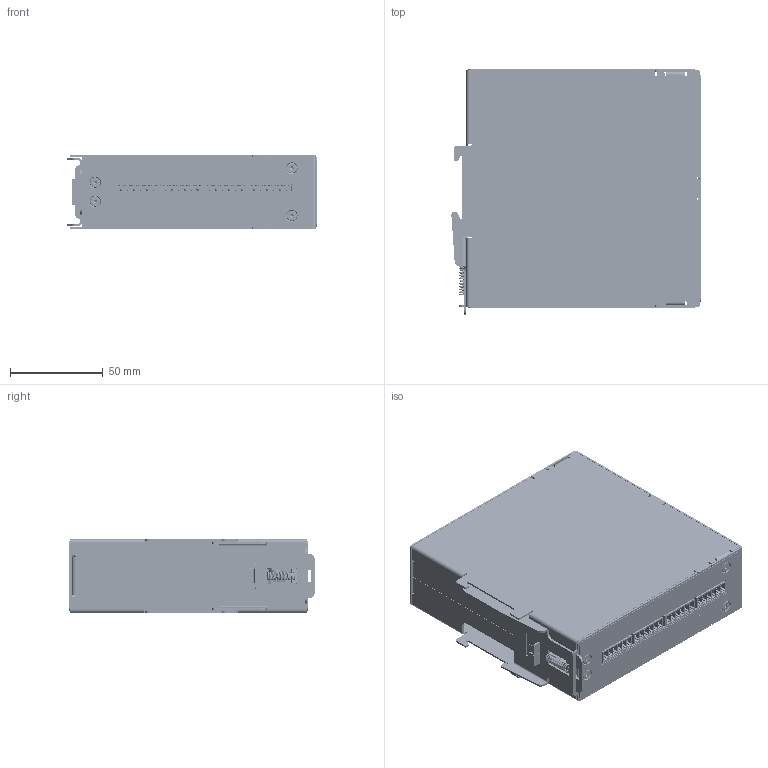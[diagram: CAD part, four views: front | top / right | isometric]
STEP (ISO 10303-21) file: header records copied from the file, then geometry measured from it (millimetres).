
FILE_DESCRIPTION (( 'STEP AP214' ), '1' );
FILE_NAME ('991-24579-00 RTD9-16 Dumb Solid No Terminals.STEP', '2023-02-20T21:47:48', ( '' ), ( '' ), 'SwSTEP 2.0', 'SolidWorks 2019', '' );
FILE_SCHEMA (( 'AUTOMOTIVE_DESIGN' ));
Length unit declared in the file: millimetre
Products named in the file (1): 991-24579-00 RTD9-16 Dumb Solid No Terminals
Bounding box: 134.42 x 132.35 x 39.6 mm (x, y, z)
Surface area: 177204.4 mm2 (no closed solid volume)
Topology: 0 solids, 96 shells, 7562 faces, 19509 edges, 12654 vertices
Faces by surface type: plane 4905, cylinder 1651, bspline 706, cone 204, torus 80, sphere 16
Entity records: 365322 total; most frequent: CARTESIAN_POINT 109379, ORIENTED_EDGE 38758, DIRECTION 29459, EDGE_CURVE 19461, VERTEX_POINT 12654, VECTOR 10413, LINE 10413, AXIS2_PLACEMENT_3D 9523
